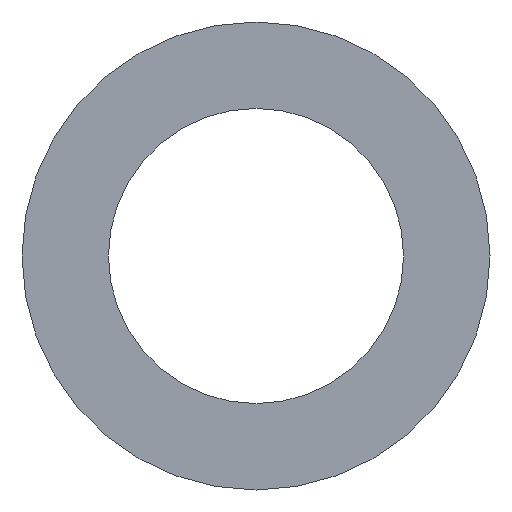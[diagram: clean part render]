
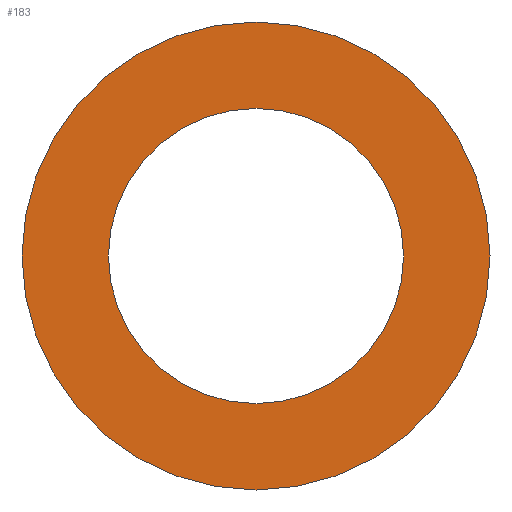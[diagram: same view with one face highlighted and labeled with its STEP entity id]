
A CAD part, front view. The second image highlights one B-rep face of the part: STEP entity #183.
In plain terms, the highlighted planar face has unit normal (0, -1, 0).
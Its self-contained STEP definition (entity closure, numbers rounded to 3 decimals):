
#22 = VERTEX_POINT('',#23);
#23 = CARTESIAN_POINT('',(0.,70.,81.5));
#32 = CYLINDRICAL_SURFACE('',#33,6.5);
#33 = AXIS2_PLACEMENT_3D('',#34,#35,#36);
#34 = CARTESIAN_POINT('',(0.,70.,88.));
#35 = DIRECTION('',(0.,-1.,0.));
#36 = DIRECTION('',(0.,0.,-1.));
#79 = EDGE_CURVE('',#22,#22,#80,.T.);
#80 = SURFACE_CURVE('',#81,(#86,#93),.PCURVE_S1.);
#81 = CIRCLE('',#82,6.5);
#82 = AXIS2_PLACEMENT_3D('',#83,#84,#85);
#83 = CARTESIAN_POINT('',(0.,70.,88.));
#84 = DIRECTION('',(0.,1.,0.));
#85 = DIRECTION('',(0.,0.,-1.));
#86 = PCURVE('',#32,#87);
#87 = DEFINITIONAL_REPRESENTATION('',(#88),#92);
#88 = LINE('',#89,#90);
#89 = CARTESIAN_POINT('',(-0.,0.));
#90 = VECTOR('',#91,1.);
#91 = DIRECTION('',(-1.,0.));
#92 = ( GEOMETRIC_REPRESENTATION_CONTEXT(2) 
PARAMETRIC_REPRESENTATION_CONTEXT() REPRESENTATION_CONTEXT('2D SPACE',''
  ) );
#93 = PCURVE('',#94,#99);
#94 = PLANE('',#95);
#95 = AXIS2_PLACEMENT_3D('',#96,#97,#98);
#96 = CARTESIAN_POINT('',(0.,70.,88.));
#97 = DIRECTION('',(0.,1.,0.));
#98 = DIRECTION('',(0.,0.,-1.));
#99 = DEFINITIONAL_REPRESENTATION('',(#100),#104);
#100 = CIRCLE('',#101,6.5);
#101 = AXIS2_PLACEMENT_2D('',#102,#103);
#102 = CARTESIAN_POINT('',(0.,0.));
#103 = DIRECTION('',(1.,0.));
#104 = ( GEOMETRIC_REPRESENTATION_CONTEXT(2) 
PARAMETRIC_REPRESENTATION_CONTEXT() REPRESENTATION_CONTEXT('2D SPACE',''
  ) );
#110 = VERTEX_POINT('',#111);
#111 = CARTESIAN_POINT('',(0.,70.,83.9));
#120 = CYLINDRICAL_SURFACE('',#121,4.1);
#121 = AXIS2_PLACEMENT_3D('',#122,#123,#124);
#122 = CARTESIAN_POINT('',(0.,70.,88.));
#123 = DIRECTION('',(0.,-1.,0.));
#124 = DIRECTION('',(0.,0.,-1.));
#162 = EDGE_CURVE('',#110,#110,#163,.T.);
#163 = SURFACE_CURVE('',#164,(#169,#176),.PCURVE_S1.);
#164 = CIRCLE('',#165,4.1);
#165 = AXIS2_PLACEMENT_3D('',#166,#167,#168);
#166 = CARTESIAN_POINT('',(0.,70.,88.));
#167 = DIRECTION('',(0.,1.,0.));
#168 = DIRECTION('',(0.,0.,-1.));
#169 = PCURVE('',#120,#170);
#170 = DEFINITIONAL_REPRESENTATION('',(#171),#175);
#171 = LINE('',#172,#173);
#172 = CARTESIAN_POINT('',(-0.,0.));
#173 = VECTOR('',#174,1.);
#174 = DIRECTION('',(-1.,0.));
#175 = ( GEOMETRIC_REPRESENTATION_CONTEXT(2) 
PARAMETRIC_REPRESENTATION_CONTEXT() REPRESENTATION_CONTEXT('2D SPACE',''
  ) );
#176 = PCURVE('',#94,#177);
#177 = DEFINITIONAL_REPRESENTATION('',(#178),#182);
#178 = CIRCLE('',#179,4.1);
#179 = AXIS2_PLACEMENT_2D('',#180,#181);
#180 = CARTESIAN_POINT('',(0.,0.));
#181 = DIRECTION('',(1.,0.));
#182 = ( GEOMETRIC_REPRESENTATION_CONTEXT(2) 
PARAMETRIC_REPRESENTATION_CONTEXT() REPRESENTATION_CONTEXT('2D SPACE',''
  ) );
#183 = ADVANCED_FACE('',(#184,#187),#94,.F.);
#184 = FACE_BOUND('',#185,.F.);
#185 = EDGE_LOOP('',(#186));
#186 = ORIENTED_EDGE('',*,*,#79,.T.);
#187 = FACE_BOUND('',#188,.F.);
#188 = EDGE_LOOP('',(#189));
#189 = ORIENTED_EDGE('',*,*,#162,.F.);
